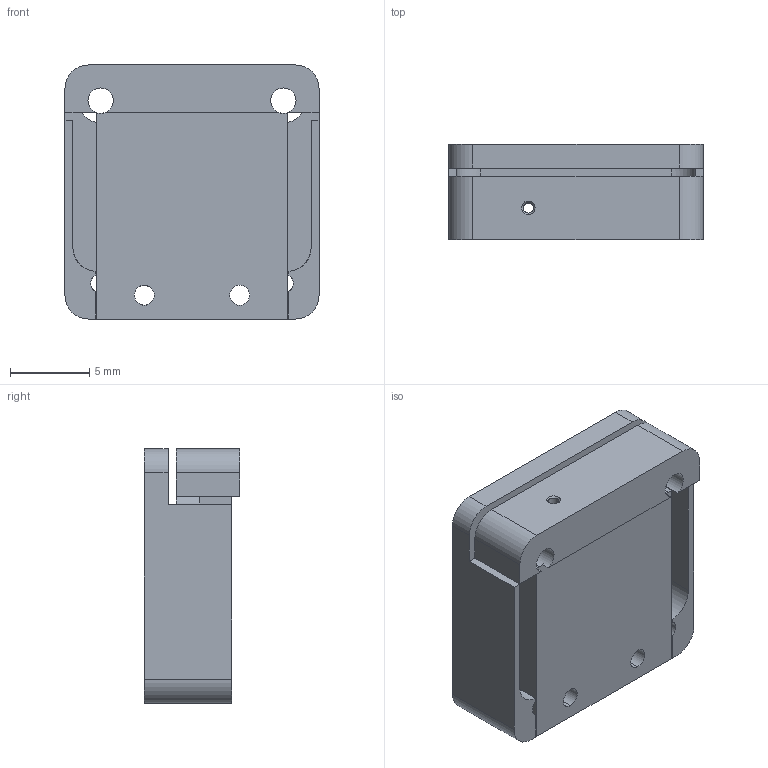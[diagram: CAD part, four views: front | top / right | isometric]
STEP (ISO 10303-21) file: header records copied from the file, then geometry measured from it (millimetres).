
FILE_DESCRIPTION (( 'STEP AP203' ), '1' );
FILE_NAME ('Scanner16-z_web_pattern.STEP', '2024-03-26T07:57:02', ( '' ), ( '' ), 'SwSTEP 2.0', 'SolidWorks 2020', '' );
FILE_SCHEMA (( 'CONFIG_CONTROL_DESIGN' ));
Length unit declared in the file: millimetre
Products named in the file (1): Scanner16-z_web_pattern
Bounding box: 16 x 6 x 16 mm (x, y, z)
Volume: 1125 mm3; surface area: 1603.7 mm2
Topology: 2 solids, 2 shells, 84 faces, 244 edges, 162 vertices
Faces by surface type: cylinder 48, plane 34, cone 2
Entity records: 2961 total; most frequent: CARTESIAN_POINT 531, DIRECTION 508, ORIENTED_EDGE 488, EDGE_CURVE 244, AXIS2_PLACEMENT_3D 187, VERTEX_POINT 162, VECTOR 134, LINE 134
